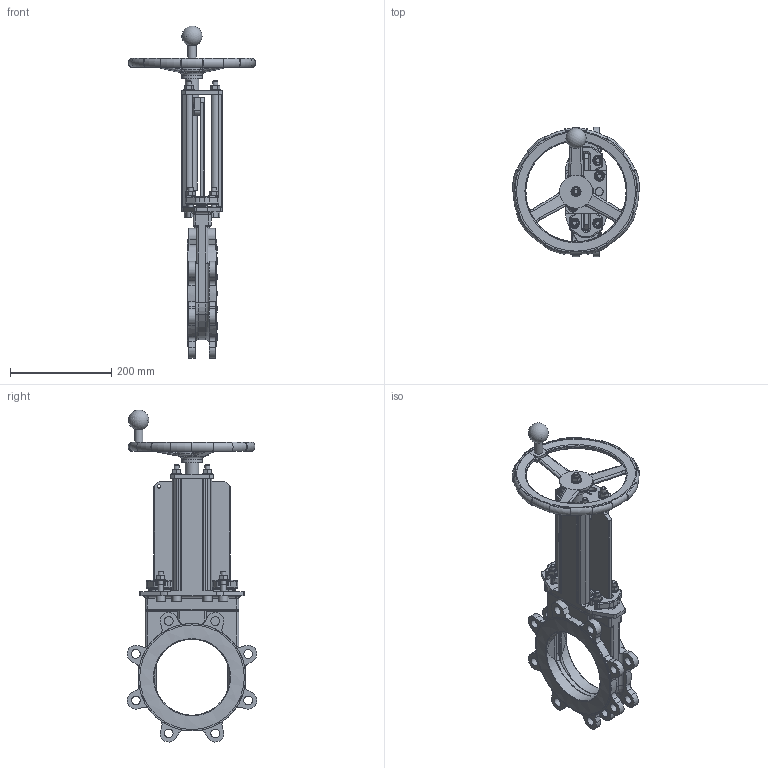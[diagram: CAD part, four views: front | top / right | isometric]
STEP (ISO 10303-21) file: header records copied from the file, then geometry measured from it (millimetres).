
FILE_DESCRIPTION(/* description */ ('','CAx-IF Rec.Pracs.---Representation and Presentation of Product Manufacturing Information (PMI)---4.0---2014-10-13'),/* implementation_level */ '2;1');
FILE_NAME(/* name */ 'F:\3D Sammanställningar\WB\WB150\WB14-DN150-PN10-HW_Shrinkwrap_1.stp',/* time_stamp */ '2018-09-10T09:04:00+02:00',/* author */ ('emimus'),/* organization */ (''),/* preprocessor_version */ 'ST-DEVELOPER v17.2',/* originating_system */ 'Autodesk Inventor 2019',/* authorisation */ '');
FILE_SCHEMA (('AP242_MANAGED_MODEL_BASED_3D_ENGINEERING_MIM_LF { 1 0 10303 442 1 1 4 }'));
Length unit declared in the file: millimetre
Products named in the file (1): WB14-DN150-PN10-HW_Shrinkwrap_1
Bounding box: 251.89 x 255.71 x 655.21 mm (x, y, z)
Volume: 2585638.1 mm3; surface area: 669291.1 mm2
Topology: 1 solids, 1 shells, 1312 faces, 3490 edges, 2208 vertices
Faces by surface type: plane 585, cylinder 411, torus 137, bspline 123, cone 43, sphere 13
Full cylindrical faces by diameter (mm): 6.75 x2, 7 x1, 8.376 x5, 9 x2, 10 x25, 10.5 x8, 11 x4, 13 x2, 15 x1, 15.5 x1, 16 x1, 17.294 x16, 20 x10, 27 x2, 40 x1, 150 x2, 152.3 x2, 206.3 x2, 212 x2, 235 x1
Entity records: 44261 total; most frequent: CARTESIAN_POINT 11668, ORIENTED_EDGE 6960, DIRECTION 6777, EDGE_CURVE 3480, AXIS2_PLACEMENT_3D 2519, VERTEX_POINT 2208, LINE 1739, VECTOR 1739
